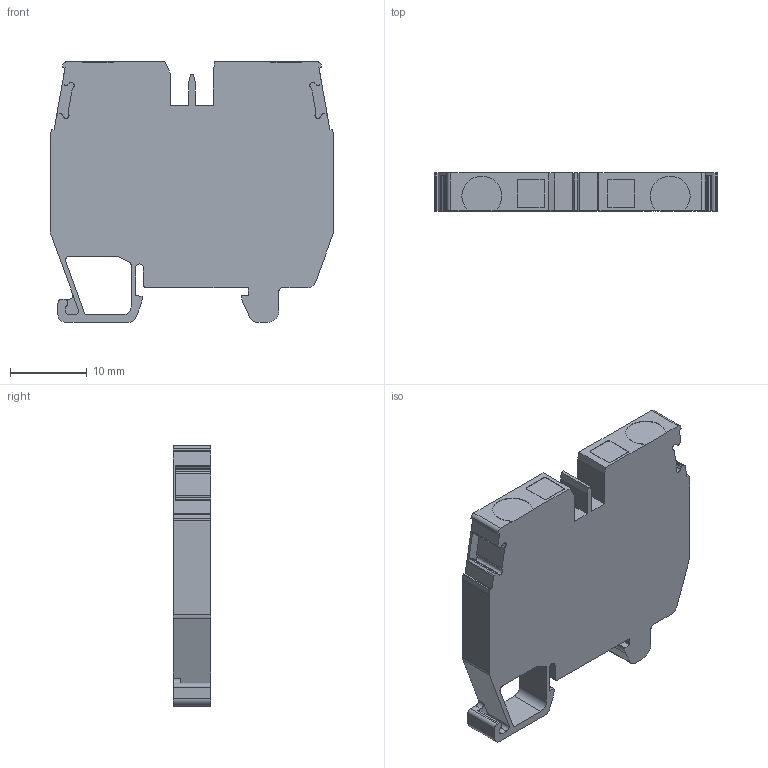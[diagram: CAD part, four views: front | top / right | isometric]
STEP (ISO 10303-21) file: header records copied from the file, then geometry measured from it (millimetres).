
FILE_DESCRIPTION(/* description */ ('Unknown'),/* implementation_level */ '2;1');
FILE_NAME(/* name */ 'CXM2.5',/* time_stamp */ '2018-04-06T09:47:50+05:00',/* author */ ('Unknown'),/* organization */ ('Unknown'),/* preprocessor_version */ 'ST-DEVELOPER v16.7',/* originating_system */ 'DEX',/* authorisation */ $);
FILE_SCHEMA (('AUTOMOTIVE_DESIGN {1 0 10303 214 3 1 1}'));
Length unit declared in the file: millimetre
Products named in the file (1): CXM2.5
Bounding box: 37 x 4.95 x 34 mm (x, y, z)
Volume: 5002.6 mm3; surface area: 3099.1 mm2
Topology: 1 solids, 1 shells, 145 faces, 431 edges, 290 vertices
Faces by surface type: plane 82, cylinder 63
Entity records: 5938 total; most frequent: CARTESIAN_POINT 867, ORIENTED_EDGE 862, DIRECTION 849, EDGE_CURVE 431, LINE 305, VECTOR 305, VERTEX_POINT 290, AXIS2_PLACEMENT_3D 272
